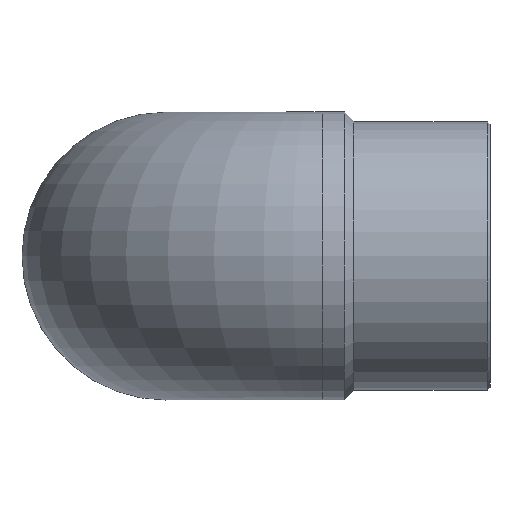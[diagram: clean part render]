
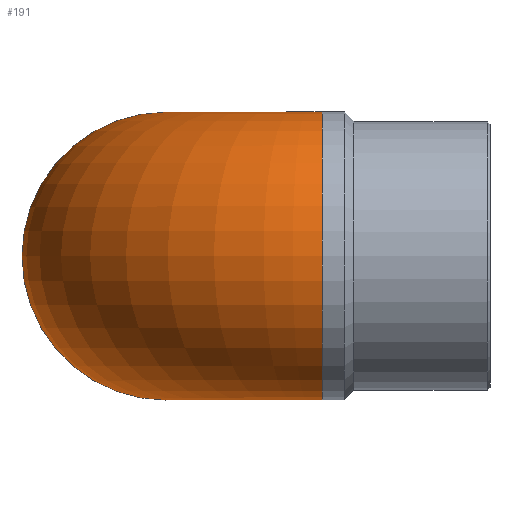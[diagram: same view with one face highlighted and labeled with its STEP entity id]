
A CAD part, top view. The second image highlights one B-rep face of the part: STEP entity #191.
In plain terms, the highlighted toroidal (fillet/blend) face has major radius 163 mm and minor radius 150 mm.
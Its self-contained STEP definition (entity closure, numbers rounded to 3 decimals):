
#20=TOROIDAL_SURFACE('',#231,163.,150.);
#59=ORIENTED_EDGE('',*,*,#77,.F.);
#60=ORIENTED_EDGE('',*,*,#79,.T.);
#77=EDGE_CURVE('',#96,#96,#114,.F.);
#79=EDGE_CURVE('',#98,#98,#116,.F.);
#96=VERTEX_POINT('',#312);
#98=VERTEX_POINT('',#318);
#114=CIRCLE('',#217,150.);
#116=CIRCLE('',#221,150.);
#142=EDGE_LOOP('',(#59));
#143=EDGE_LOOP('',(#60));
#169=FACE_BOUND('',#142,.T.);
#170=FACE_BOUND('',#143,.T.);
#191=ADVANCED_FACE('',(#169,#170),#20,.T.);
#217=AXIS2_PLACEMENT_3D('',#311,#256,#257);
#221=AXIS2_PLACEMENT_3D('',#317,#264,#265);
#231=AXIS2_PLACEMENT_3D('',#367,#284,#285);
#256=DIRECTION('',(-1.,0.,0.));
#257=DIRECTION('',(0.,0.,-1.));
#264=DIRECTION('',(0.,0.,-1.));
#265=DIRECTION('',(1.,0.,0.));
#284=DIRECTION('',(0.,1.,0.));
#285=DIRECTION('',(0.,0.,1.));
#311=CARTESIAN_POINT('',(163.,0.,338.));
#312=CARTESIAN_POINT('',(163.,0.,188.));
#317=CARTESIAN_POINT('',(0.,0.,175.));
#318=CARTESIAN_POINT('',(150.,0.,175.));
#367=CARTESIAN_POINT('',(163.,0.,175.));
